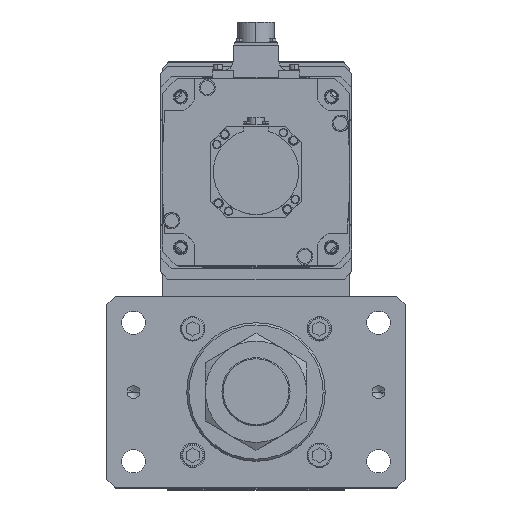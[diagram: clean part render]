
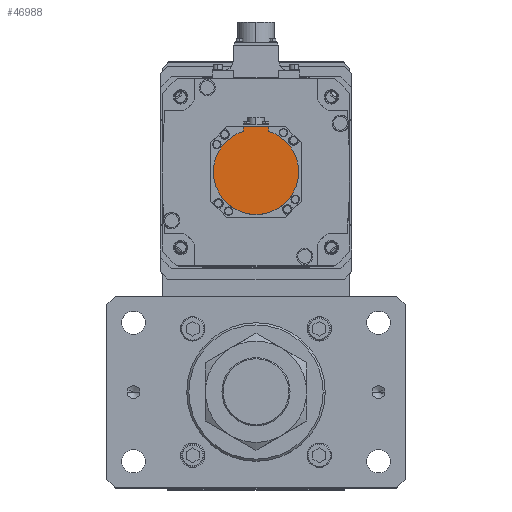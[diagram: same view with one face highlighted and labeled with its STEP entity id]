
A CAD part, top view. The second image highlights one B-rep face of the part: STEP entity #46988.
In plain terms, the highlighted planar face has unit normal (0, 0, 1) as drawn and (0, 0, -1) by its records, which use the part's own axes.
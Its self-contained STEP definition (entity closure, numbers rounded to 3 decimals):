
#878 = CARTESIAN_POINT ( 'NONE',  ( 12., -42.5, -178.5 ) ) ;
#1013 = CARTESIAN_POINT ( 'NONE',  ( -12., -38.158, -178.5 ) ) ;
#2512 = DIRECTION ( 'NONE',  ( 0., 0., 1. ) ) ;
#4510 = DIRECTION ( 'NONE',  ( 1., 0., 0. ) ) ;
#5888 = CARTESIAN_POINT ( 'NONE',  ( -12., -42.5, -178.5 ) ) ;
#9194 = VERTEX_POINT ( 'NONE', #10141 ) ;
#10141 = CARTESIAN_POINT ( 'NONE',  ( 12., -38.158, -178.5 ) ) ;
#10543 = FACE_OUTER_BOUND ( 'NONE', #39017, .T. ) ;
#10986 = LINE ( 'NONE', #50707, #14825 ) ;
#11213 = AXIS2_PLACEMENT_3D ( 'NONE', #20743, #12923, #33135 ) ;
#11597 = VERTEX_POINT ( 'NONE', #19367 ) ;
#12923 = DIRECTION ( 'NONE',  ( 0., 0., 1. ) ) ;
#13629 = AXIS2_PLACEMENT_3D ( 'NONE', #37166, #41436, #4510 ) ;
#13814 = DIRECTION ( 'NONE',  ( 0., 1., 0. ) ) ;
#14825 = VECTOR ( 'NONE', #13814, 1000. ) ;
#14858 = VERTEX_POINT ( 'NONE', #878 ) ;
#17840 = AXIS2_PLACEMENT_3D ( 'NONE', #43334, #2512, #19017 ) ;
#18158 = ORIENTED_EDGE ( 'NONE', *, *, #49838, .F. ) ;
#19017 = DIRECTION ( 'NONE',  ( 1., 0., 0. ) ) ;
#19367 = CARTESIAN_POINT ( 'NONE',  ( 40., 0., -178.5 ) ) ;
#20743 = CARTESIAN_POINT ( 'NONE',  ( 0., 0., -178.5 ) ) ;
#21333 = DIRECTION ( 'NONE',  ( 0., 0., 1. ) ) ;
#21596 = CIRCLE ( 'NONE', #45336, 40. ) ;
#22062 = VERTEX_POINT ( 'NONE', #5888 ) ;
#24546 = DIRECTION ( 'NONE',  ( 0., 1., 0. ) ) ;
#24784 = PLANE ( 'NONE',  #13629 ) ;
#26104 = ORIENTED_EDGE ( 'NONE', *, *, #29427, .T. ) ;
#27106 = LINE ( 'NONE', #49287, #44240 ) ;
#29385 = VERTEX_POINT ( 'NONE', #37026 ) ;
#29427 = EDGE_CURVE ( 'NONE', #14858, #22062, #27106, .T. ) ;
#30912 = ORIENTED_EDGE ( 'NONE', *, *, #36289, .F. ) ;
#31279 = EDGE_CURVE ( 'NONE', #22062, #47364, #48492, .T. ) ;
#33135 = DIRECTION ( 'NONE',  ( 1., 0., 0. ) ) ;
#35146 = VECTOR ( 'NONE', #24546, 1000. ) ;
#36002 = CIRCLE ( 'NONE', #11213, 40. ) ;
#36234 = CARTESIAN_POINT ( 'NONE',  ( -12., -40.329, -178.5 ) ) ;
#36289 = EDGE_CURVE ( 'NONE', #14858, #9194, #10986, .T. ) ;
#37026 = CARTESIAN_POINT ( 'NONE',  ( -40., 0., -178.5 ) ) ;
#37166 = CARTESIAN_POINT ( 'NONE',  ( 0., -1.249, -178.5 ) ) ;
#37494 = ORIENTED_EDGE ( 'NONE', *, *, #40139, .F. ) ;
#39008 = ORIENTED_EDGE ( 'NONE', *, *, #46508, .F. ) ;
#39017 = EDGE_LOOP ( 'NONE', ( #44492, #39008, #37494, #18158, #30912, #26104 ) ) ;
#40139 = EDGE_CURVE ( 'NONE', #11597, #29385, #21596, .T. ) ;
#41436 = DIRECTION ( 'NONE',  ( 0., 0., 1. ) ) ;
#41477 = DIRECTION ( 'NONE',  ( -1., 0., 0. ) ) ;
#43334 = CARTESIAN_POINT ( 'NONE',  ( 0., 0., -178.5 ) ) ;
#44240 = VECTOR ( 'NONE', #41477, 1000. ) ;
#44492 = ORIENTED_EDGE ( 'NONE', *, *, #31279, .T. ) ;
#45336 = AXIS2_PLACEMENT_3D ( 'NONE', #45630, #21333, #49712 ) ;
#45630 = CARTESIAN_POINT ( 'NONE',  ( 0., 0., -178.5 ) ) ;
#46508 = EDGE_CURVE ( 'NONE', #29385, #47364, #36002, .T. ) ;
#46988 = ADVANCED_FACE ( 'NONE', ( #10543 ), #24784, .F. ) ;
#47364 = VERTEX_POINT ( 'NONE', #1013 ) ;
#48492 = LINE ( 'NONE', #36234, #35146 ) ;
#49287 = CARTESIAN_POINT ( 'NONE',  ( 0., -42.5, -178.5 ) ) ;
#49712 = DIRECTION ( 'NONE',  ( 1., 0., 0. ) ) ;
#49838 = EDGE_CURVE ( 'NONE', #9194, #11597, #51060, .T. ) ;
#50707 = CARTESIAN_POINT ( 'NONE',  ( 12., -1.249, -178.5 ) ) ;
#51060 = CIRCLE ( 'NONE', #17840, 40. ) ;
